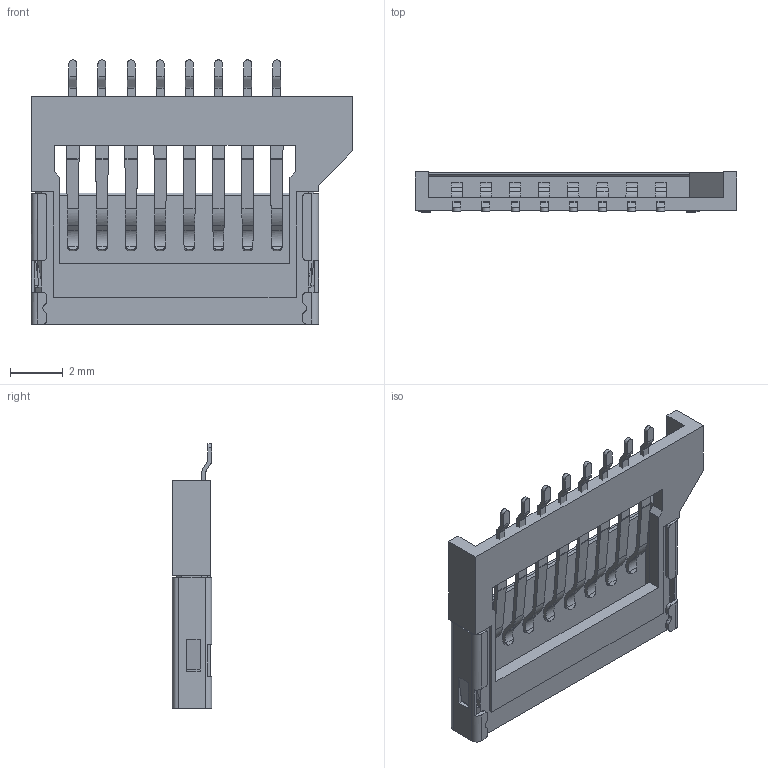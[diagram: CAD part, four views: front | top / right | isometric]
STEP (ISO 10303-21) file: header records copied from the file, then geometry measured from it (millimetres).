
FILE_DESCRIPTION((''),'2;1');
FILE_NAME('TF_1060813PT001_ASM_ASM','2022-12-15T',('Administrator'),(''),'PRO/ENGINEER BY PARAMETRIC TECHNOLOGY CORPORATION, 2009440','PRO/ENGINEER BY PARAMETRIC TECHNOLOGY CORPORATION, 2009440','');
FILE_SCHEMA(('CONFIG_CONTROL_DESIGN'));
Length unit declared in the file: millimetre
Products named in the file (11): MSBR-10; MSBR-9; MSBR-8; MSBR-7; MSBR-6; MSBR-5; MSBR-4; MSBR-3; MSBR-2; PRT0015; TF_1060813PT001_ASM_ASM
Assembly tree (10 placements, depth 2):
  TF_1060813PT001_ASM_ASM
    MSBR-10
    MSBR-9
    MSBR-8
    MSBR-7
    MSBR-6
    MSBR-5
    MSBR-4
    MSBR-3
    MSBR-2
    PRT0015
Bounding box: 12.16 x 1.5 x 9.98 mm (x, y, z)
Volume: 48.8 mm3; surface area: 397.1 mm2
Topology: 10 solids, 10 shells, 383 faces, 1069 edges, 706 vertices
Faces by surface type: plane 251, cylinder 128, cone 4
Entity records: 12760 total; most frequent: CARTESIAN_POINT 2856, ORIENTED_EDGE 2138, DIRECTION 1855, EDGE_CURVE 1069, VECTOR 767, LINE 767, VERTEX_POINT 706, AXIS2_PLACEMENT_3D 544
